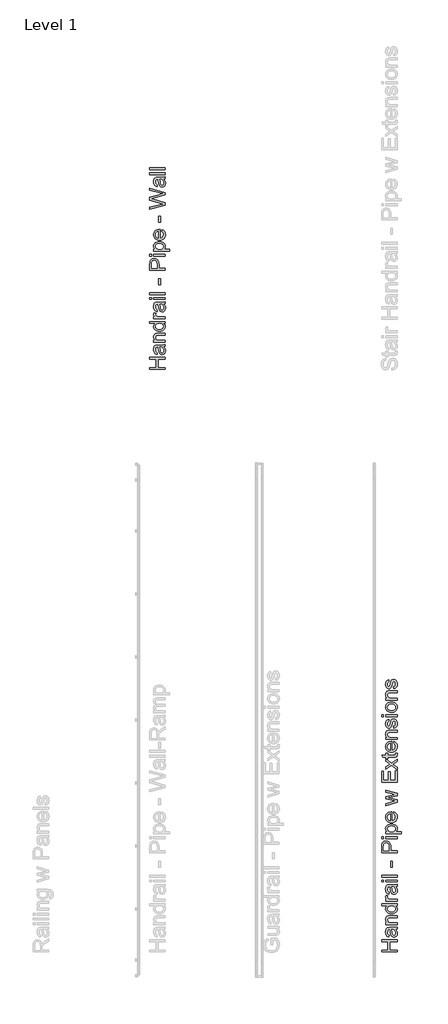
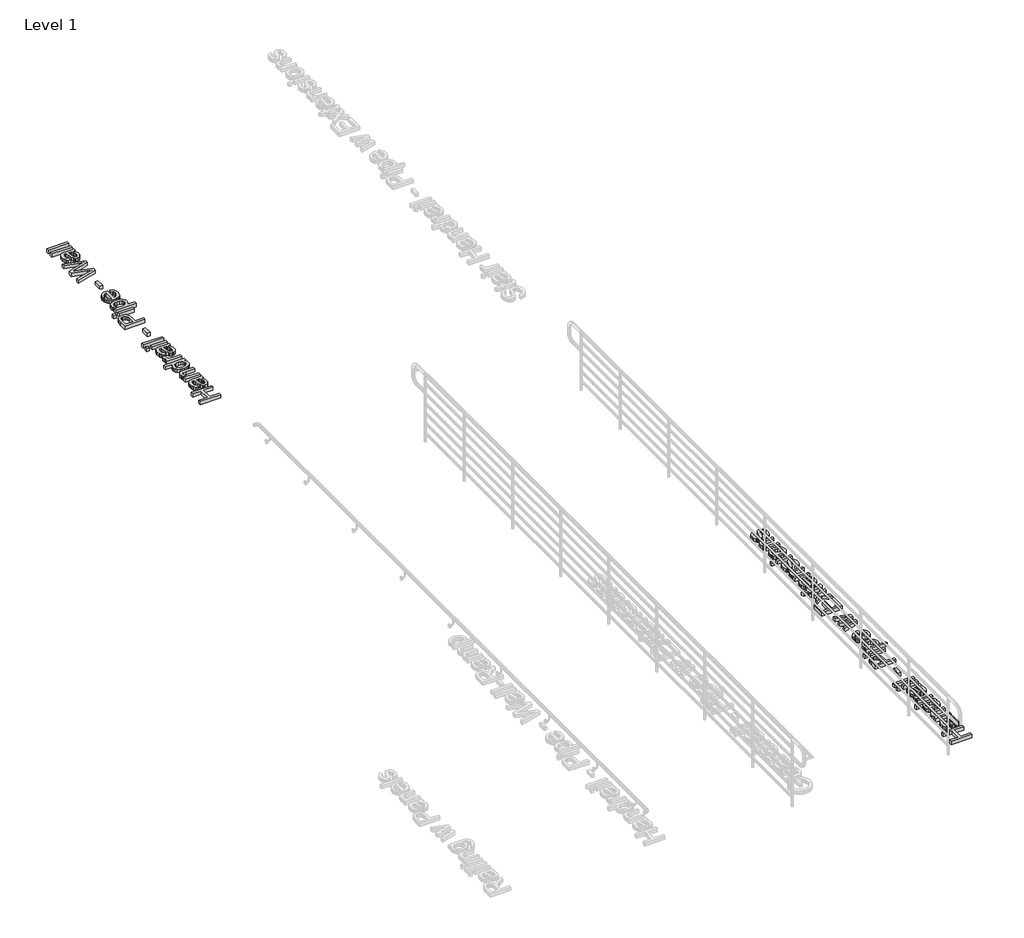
# One storey, part 11 of 14: 2 proxies.
"""IFC4 building model written with IfcOpenShell, lengths in millimetres."""

from ifc_helpers import new_model, si_unit, origin, origin_with_axes, place, context, project, spatial, polyline, outline, extrude, element, save

model = new_model("IFC4")

# Units and contexts
model_context = context("Model", 3, world=origin())
ifc_project = project(units=[si_unit("LENGTHUNIT", "METRE", prefix="MILLI")], contexts=[model_context])

# Site, building, storey
site = spatial("IfcSite", under=ifc_project)
building = spatial("IfcBuilding", under=site)
storey = spatial("IfcBuildingStorey", under=building, Name="Level 1", Elevation=0.0)

# Proxies
placement = place(None, origin())
element("IfcBuildingElementProxy", 1, Name="12\" Arial", ObjectType="12\" Arial", at=placement, inside=storey, context=model_context, shape_type="SweptSolid", body=[
    extrude(outline(polyline([(-1054.5124134, -14491.3688513), (-1354.6231826, -14491.3688513), (-1354.6231826, -14453.8550051), (-1232.7031826, -14453.8550051), (-1232.7031826, -14294.4211589), (-1354.6231826, -14294.4211589), (-1354.6231826, -14256.9073128), (-1054.5124134, -14256.9073128), (-1054.5124134, -14294.4211589), (-1195.1893365, -14294.4211589), (-1195.1893365, -14453.8550051), (-1054.5124134, -14453.8550051), (-1054.5124134, -14491.3688513)])), origin_with_axes(), (0.0, 0.0, 1.0), 50.8),
    extrude(outline(polyline([(-1082.647798, -14055.2703897), (-1067.2795769, -14073.1938753), (-1057.2233749, -14091.6485628), (-1051.6732307, -14111.0557503), (-1049.8231826, -14131.8367359), (-1054.2742884, -14163.186808), (-1067.6276057, -14186.3124089), (-1087.9048653, -14200.572433), (-1113.127798, -14205.3257743), (-1128.6791922, -14203.5306782), (-1142.8018365, -14198.1453897), (-1154.8912595, -14189.8384907), (-1164.3429903, -14179.2785628), (-1176.6522211, -14153.0115436), (-1182.2939519, -14120.5532743), (-1188.2287595, -14082.196832), (-1195.1893365, -14055.4901974), (-1203.5420288, -14055.2703897), (-1220.284048, -14057.8531301), (-1231.237798, -14065.6013513), (-1239.3706826, -14082.9295243), (-1242.0816442, -14107.0717359), (-1240.2773894, -14129.4188513), (-1234.8646249, -14145.0251974), (-1224.8542163, -14155.6675532), (-1209.2570288, -14163.1226974), (-1213.9462595, -14200.6365436), (-1234.4616442, -14194.1247407), (-1250.5808749, -14184.4074089), (-1262.908423, -14170.5778416), (-1272.0487595, -14151.729332), (-1277.7088076, -14128.6770003), (-1279.5954903, -14102.2359666), (-1277.9286153, -14076.8756541), (-1272.9279903, -14056.7724089), (-1265.4087355, -14041.6148368), (-1256.1859711, -14031.0915436), (-1244.783447, -14024.1126493), (-1230.7249134, -14019.5882743), (-1197.900298, -14017.7565436), (-1151.227798, -14017.7565436), (-1086.0548172, -14015.8515436), (-1054.5124134, -14008.378082), (-1054.5124134, -14045.8919282), (-1082.647798, -14055.2703897)]), holes=[polyline([(-1157.6754903, -14055.2703897), (-1146.1722211, -14115.7907743), (-1140.0908749, -14148.0658705), (-1130.1995288, -14162.683082), (-1115.7654903, -14167.8119282), (-1104.6102499, -14165.0185388), (-1095.4699134, -14156.6383705), (-1089.3702499, -14142.8545964), (-1087.3370288, -14123.8503897), (-1089.580899, -14103.7013513), (-1096.3125095, -14085.8969282), (-1106.2313317, -14071.4628897), (-1118.0368365, -14061.4250051), (-1130.1995288, -14056.9738993), (-1147.0514519, -14055.4901974), (-1157.6754903, -14055.2703897)])]), origin_with_axes(), (0.0, 0.0, 1.0), 50.8),
    extrude(outline(polyline([(-1054.5124134, -13966.1750051), (-1274.9062595, -13966.1750051), (-1274.9062595, -13928.6611589), (-1244.1331826, -13928.6611589), (-1259.6479422, -13915.6283945), (-1270.7299134, -13899.9762551), (-1277.3790961, -13881.7047407), (-1279.5954903, -13860.8138513), (-1277.8095528, -13842.3225291), (-1272.4517403, -13825.3881782), (-1264.1906345, -13811.2655339), (-1253.6948172, -13801.209332), (-1226.1089519, -13789.9625051), (-1189.8406826, -13787.9842359), (-1054.5124134, -13787.9842359), (-1054.5124134, -13825.498082), (-1184.7851057, -13825.498082), (-1217.9760672, -13829.8209666), (-1227.8582547, -13835.8015676), (-1235.524048, -13845.0976013), (-1240.4422451, -13857.0130099), (-1242.0816442, -13870.8517359), (-1238.3998653, -13892.8233464), (-1227.3545288, -13911.5527936), (-1218.3378341, -13919.0377034), (-1206.0148653, -13924.3840676), (-1171.4501057, -13928.6611589), (-1054.5124134, -13928.6611589), (-1054.5124134, -13966.1750051)])), origin_with_axes(), (0.0, 0.0, 1.0), 50.8),
    extrude(outline(polyline([(-1054.5124134, -13600.4150051), (-1089.9014519, -13600.4150051), (-1072.3672091, -13611.6389354), (-1059.8427499, -13625.234957), (-1052.3280745, -13641.20307), (-1049.8231826, -13659.5432743), (-1053.4500095, -13683.7953897), (-1064.3304903, -13705.9959666), (-1081.7044567, -13724.7895243), (-1104.8117403, -13738.820582), (-1132.7181586, -13747.5579378), (-1164.4895288, -13750.4703897), (-1195.8670769, -13747.7869041), (-1224.2039519, -13739.7364474), (-1247.8882307, -13726.3281782), (-1265.3079903, -13707.5712551), (-1276.0236153, -13684.8852695), (-1279.5954903, -13659.6898128), (-1277.0402259, -13641.3358705), (-1269.3744326, -13625.1067359), (-1257.6238797, -13611.3504378), (-1242.8143365, -13600.4150051), (-1354.6231826, -13600.4150051), (-1354.6231826, -13562.9011589), (-1054.5124134, -13562.9011589), (-1054.5124134, -13600.4150051)]), holes=[polyline([(-1164.6360672, -13712.9565436), (-1130.7032547, -13708.7252455), (-1106.5702019, -13696.0313513), (-1092.145322, -13677.5858224), (-1087.3370288, -13656.0996205), (-1091.9255144, -13634.6225772), (-1105.6909711, -13616.6441397), (-1128.8898413, -13604.4722888), (-1161.7785672, -13600.4150051), (-1197.7354422, -13604.545558), (-1222.665298, -13616.9372166), (-1237.2275576, -13635.3735868), (-1242.0816442, -13657.6382743), (-1237.4198894, -13679.3442839), (-1223.4346249, -13697.1303897), (-1199.4114759, -13709.0000051), (-1164.6360672, -13712.9565436)])]), origin_with_axes(), (0.0, 0.0, 1.0), 50.8),
    extrude(outline(polyline([(-1054.5124134, -13506.6303897), (-1274.9062595, -13506.6303897), (-1274.9062595, -13473.8057743), (-1242.3014519, -13473.8057743), (-1261.2049134, -13461.6797166), (-1272.3418365, -13450.5061589), (-1277.7820769, -13439.2959666), (-1279.5954903, -13427.0600051), (-1276.7013557, -13408.3763513), (-1268.0189519, -13389.3996205), (-1234.3883749, -13401.9286589), (-1240.1583269, -13415.1171205), (-1242.0816442, -13428.305582), (-1240.2315961, -13439.5066157), (-1234.6814519, -13449.5170243), (-1225.8525095, -13457.6041157), (-1214.1660672, -13463.0351974), (-1193.2110672, -13467.596207), (-1170.3510672, -13469.1165436), (-1054.5124134, -13469.1165436), (-1054.5124134, -13506.6303897)])), origin_with_axes(), (0.0, 0.0, 1.0), 50.8),
    extrude(outline(polyline([(-1082.647798, -13225.2765436), (-1067.2795769, -13243.2000291), (-1057.2233749, -13261.6547166), (-1051.6732307, -13281.0619041), (-1049.8231826, -13301.8428897), (-1054.2742884, -13333.1929618), (-1067.6276057, -13356.3185628), (-1087.9048653, -13370.5785868), (-1113.127798, -13375.3319282), (-1128.6791922, -13373.536832), (-1142.8018365, -13368.1515436), (-1154.8912595, -13359.8446445), (-1164.3429903, -13349.2847166), (-1176.6522211, -13323.0176974), (-1182.2939519, -13290.5594282), (-1188.2287595, -13252.2029859), (-1195.1893365, -13225.4963513), (-1203.5420288, -13225.2765436), (-1220.284048, -13227.8592839), (-1231.237798, -13235.6075051), (-1239.3706826, -13252.9356782), (-1242.0816442, -13277.0778897), (-1240.2773894, -13299.4250051), (-1234.8646249, -13315.0313513), (-1224.8542163, -13325.673707), (-1209.2570288, -13333.1288513), (-1213.9462595, -13370.6426974), (-1234.4616442, -13364.1308945), (-1250.5808749, -13354.4135628), (-1262.908423, -13340.5839955), (-1272.0487595, -13321.7354859), (-1277.7088076, -13298.6831541), (-1279.5954903, -13272.2421205), (-1277.9286153, -13246.881808), (-1272.9279903, -13226.7785628), (-1265.4087355, -13211.6209907), (-1256.1859711, -13201.0976974), (-1244.783447, -13194.1188032), (-1230.7249134, -13189.5944282), (-1197.900298, -13187.7626974), (-1151.227798, -13187.7626974), (-1086.0548172, -13185.8576974), (-1054.5124134, -13178.3842359), (-1054.5124134, -13215.898082), (-1082.647798, -13225.2765436)]), holes=[polyline([(-1157.6754903, -13225.2765436), (-1146.1722211, -13285.7969282), (-1140.0908749, -13318.0720243), (-1130.1995288, -13332.6892359), (-1115.7654903, -13337.818082), (-1104.6102499, -13335.0246926), (-1095.4699134, -13326.6445243), (-1089.3702499, -13312.8607503), (-1087.3370288, -13293.8565436), (-1089.580899, -13273.7075051), (-1096.3125095, -13255.903082), (-1106.2313317, -13241.4690436), (-1118.0368365, -13231.4311589), (-1130.1995288, -13226.9800532), (-1147.0514519, -13225.4963513), (-1157.6754903, -13225.2765436)])]), origin_with_axes(), (0.0, 0.0, 1.0), 50.8),
    extrude(outline(polyline([(-1317.1093365, -13136.1811589), (-1354.6231826, -13136.1811589), (-1354.6231826, -13098.6673128), (-1317.1093365, -13098.6673128), (-1317.1093365, -13136.1811589)])), origin_with_axes(), (0.0, 0.0, 1.0), 50.8),
    extrude(outline(polyline([(-1054.5124134, -13136.1811589), (-1274.9062595, -13136.1811589), (-1274.9062595, -13098.6673128), (-1054.5124134, -13098.6673128), (-1054.5124134, -13136.1811589)])), origin_with_axes(), (0.0, 0.0, 1.0), 50.8),
    extrude(outline(polyline([(-1054.5124134, -13042.3965436), (-1354.6231826, -13042.3965436), (-1354.6231826, -13004.8826974), (-1054.5124134, -13004.8826974), (-1054.5124134, -13042.3965436)])), origin_with_axes(), (0.0, 0.0, 1.0), 50.8),
    extrude(outline(polyline([(-1143.607798, -12850.138082), (-1181.1216442, -12850.138082), (-1181.1216442, -12732.9073128), (-1143.607798, -12732.9073128), (-1143.607798, -12850.138082)])), origin_with_axes(), (0.0, 0.0, 1.0), 50.8),
    extrude(outline(polyline([(-1054.5124134, -12568.7842359), (-1354.6231826, -12568.7842359), (-1354.6231826, -12457.5615436), (-1351.7656826, -12412.7207743), (-1346.4261874, -12392.727433), (-1337.7346249, -12376.269332), (-1325.297173, -12363.0167599), (-1308.7200095, -12352.6400051), (-1289.1662836, -12345.9358705), (-1267.7991442, -12343.7011589), (-1249.376512, -12345.2100472), (-1232.428423, -12349.7367118), (-1216.9548773, -12357.2811529), (-1202.9558749, -12367.8433705), (-1191.3518605, -12382.3438092), (-1183.0632788, -12401.7029138), (-1178.0901297, -12425.9206842), (-1176.4324134, -12454.9971205), (-1176.4324134, -12531.2703897), (-1054.5124134, -12531.2703897), (-1054.5124134, -12568.7842359)]), holes=[polyline([(-1213.9462595, -12531.2703897), (-1213.9462595, -12452.7990436), (-1217.3899134, -12419.5348128), (-1227.7208749, -12397.5540436), (-1244.2980384, -12385.2997647), (-1266.480298, -12381.2150051), (-1283.3322211, -12383.6237311), (-1297.5464519, -12390.8499089), (-1308.2437595, -12401.9959907), (-1314.5449134, -12416.1644282), (-1317.1093365, -12453.6782743), (-1317.1093365, -12531.2703897), (-1213.9462595, -12531.2703897)])]), origin_with_axes(), (0.0, 0.0, 1.0), 50.8),
    extrude(outline(polyline([(-1317.1093365, -12296.8088513), (-1354.6231826, -12296.8088513), (-1354.6231826, -12259.2950051), (-1317.1093365, -12259.2950051), (-1317.1093365, -12296.8088513)])), origin_with_axes(), (0.0, 0.0, 1.0), 50.8),
    extrude(outline(polyline([(-1054.5124134, -12296.8088513), (-1274.9062595, -12296.8088513), (-1274.9062595, -12259.2950051), (-1054.5124134, -12259.2950051), (-1054.5124134, -12296.8088513)])), origin_with_axes(), (0.0, 0.0, 1.0), 50.8),
    extrude(outline(polyline([(-970.1062595, -12203.0242359), (-1274.9062595, -12203.0242359), (-1274.9062595, -12165.5103897), (-1238.1251057, -12165.5103897), (-1256.268399, -12153.2744282), (-1269.2278942, -12139.573082), (-1277.0035913, -12123.6003897), (-1279.5954903, -12104.5503897), (-1275.9686634, -12079.1809186), (-1265.0881826, -12056.9986589), (-1247.6134711, -12038.9377936), (-1224.2039519, -12025.9325051), (-1196.5631345, -12018.0743801), (-1166.3945288, -12015.4550051), (-1134.3117644, -12018.4132503), (-1105.6177019, -12027.2879859), (-1081.7685672, -12041.7952936), (-1064.2205865, -12061.6512551), (-1053.4225336, -12084.7768561), (-1049.8231826, -12109.093082), (-1052.2319086, -12126.3388272), (-1059.4580865, -12141.7345243), (-1070.3660432, -12154.9138272), (-1083.8201057, -12165.5103897), (-970.1062595, -12165.5103897), (-970.1062595, -12203.0242359)]), holes=[polyline([(-1162.9508749, -12165.5103897), (-1129.320298, -12161.4531061), (-1105.8008749, -12149.2812551), (-1091.9529903, -12131.3211349), (-1087.3370288, -12109.8990436), (-1092.1178461, -12088.1289234), (-1106.460298, -12069.7108705), (-1130.8406345, -12057.1543561), (-1165.7351057, -12052.9688513), (-1199.1825095, -12057.0536109), (-1223.0316442, -12069.3078897), (-1237.3191442, -12087.2405339), (-1242.0816442, -12108.3603897), (-1237.0169086, -12129.5626734), (-1221.8227019, -12148.1822166), (-1196.975274, -12161.1783464), (-1162.9508749, -12165.5103897)])]), origin_with_axes(), (0.0, 0.0, 1.0), 50.8),
    extrude(outline(polyline([(-1120.1616442, -11818.9469282), (-1115.4724134, -11782.1657743), (-1087.7583269, -11795.4183464), (-1067.0414519, -11816.5656782), (-1054.1277499, -11845.1315195), (-1049.8231826, -11880.6396205), (-1051.6800997, -11903.9163392), (-1057.2508509, -11924.6561109), (-1066.5354362, -11942.8589354), (-1079.5338557, -11958.5248128), (-1095.8843425, -11971.1225412), (-1115.2251297, -11980.1209186), (-1137.5562175, -11985.519945), (-1162.8776057, -11987.3196205), (-1189.0576177, -11985.5016277), (-1212.1328461, -11980.0476493), (-1232.1032908, -11970.9576854), (-1248.9689519, -11958.2317359), (-1262.3680624, -11942.6070724), (-1271.9388557, -11924.8209666), (-1277.6813317, -11904.8734186), (-1279.5954903, -11882.7644282), (-1277.685911, -11861.3675231), (-1271.957173, -11842.0175772), (-1262.4092764, -11824.7145904), (-1249.0422211, -11809.4585628), (-1232.2131946, -11797.0050832), (-1212.2793845, -11788.1097407), (-1189.2407908, -11782.7725351), (-1163.0974134, -11780.9934666), (-1152.9862595, -11781.2132743), (-1152.9862595, -11949.8057743), (-1124.9058269, -11943.3122888), (-1104.2622211, -11928.2279859), (-1091.5683269, -11906.4578657), (-1087.3370288, -11879.9069282), (-1089.2969807, -11859.9410628), (-1095.1768365, -11843.1257743), (-1105.3429422, -11829.4610628), (-1120.1616442, -11818.9469282)]), holes=[polyline([(-1190.5001057, -11949.8057743), (-1190.5001057, -11818.5073128), (-1210.3194326, -11823.581207), (-1224.4970288, -11833.5275051), (-1237.6854903, -11855.3983705), (-1242.0816442, -11882.9109666), (-1238.5738797, -11908.1980099), (-1228.0505865, -11929.1072166), (-1211.6474374, -11943.6420003), (-1190.5001057, -11949.8057743)])]), origin_with_axes(), (0.0, 0.0, 1.0), 50.8),
    extrude(outline(polyline([(-1054.5124134, -11589.6875051), (-1274.9062595, -11656.7288513), (-1274.9062595, -11617.7496205), (-1146.3187595, -11579.7228897), (-1100.3789519, -11568.3661589), (-1144.6335672, -11559.0609666), (-1274.9062595, -11528.8007743), (-1274.9062595, -11484.1065436), (-1144.9999134, -11453.9928897), (-1104.9216442, -11445.7134666), (-1147.1979903, -11433.8438513), (-1274.9062595, -11395.7438513), (-1274.9062595, -11356.618082), (-1054.5124134, -11424.1723128), (-1054.5124134, -11469.5259666), (-1183.7593365, -11498.3207743), (-1224.0574134, -11506.6734666), (-1054.5124134, -11543.8209666), (-1054.5124134, -11589.6875051)])), origin_with_axes(), (0.0, 0.0, 1.0), 50.8),
    extrude(outline(polyline([(-1054.5124134, -11208.9073128), (-1354.6231826, -11208.9073128), (-1354.6231826, -10993.2026974), (-1317.1093365, -10993.2026974), (-1317.1093365, -11171.3934666), (-1228.0139519, -11171.3934666), (-1228.0139519, -11002.5811589), (-1190.5001057, -11002.5811589), (-1190.5001057, -11171.3934666), (-1092.0262595, -11171.3934666), (-1092.0262595, -10988.5134666), (-1054.5124134, -10988.5134666), (-1054.5124134, -11208.9073128)])), origin_with_axes(), (0.0, 0.0, 1.0), 50.8),
    extrude(outline(polyline([(-1054.5124134, -10960.378082), (-1165.2954903, -10880.2215436), (-1274.9062595, -10955.6888513), (-1274.9062595, -10910.5550051), (-1222.1524134, -10874.1401974), (-1197.2408749, -10857.1417359), (-1217.6097211, -10842.4146205), (-1274.9062595, -10800.9442359), (-1274.9062595, -10755.8103897), (-1165.2954903, -10835.0876974), (-1054.5124134, -10758.7411589), (-1054.5124134, -10803.8750051), (-1121.1141442, -10849.8148128), (-1133.2768365, -10858.2407743), (-1054.5124134, -10915.2442359), (-1054.5124134, -10960.378082)])), origin_with_axes(), (0.0, 0.0, 1.0), 50.8),
    extrude(outline(polyline([(-1085.7983749, -10646.1996205), (-1053.4133749, -10641.5103897), (-1049.8231826, -10669.5725051), (-1051.3801538, -10687.5784186), (-1056.0510672, -10701.0050051), (-1063.2497692, -10710.4933705), (-1072.3901057, -10716.6846205), (-1088.0880384, -10720.0916397), (-1114.9595288, -10721.2273128), (-1237.3924134, -10721.2273128), (-1237.3924134, -10749.3626974), (-1274.9062595, -10749.3626974), (-1274.9062595, -10721.2273128), (-1328.4660672, -10721.2273128), (-1350.5201057, -10683.7134666), (-1274.9062595, -10683.7134666), (-1274.9062595, -10646.1996205), (-1237.3924134, -10646.1996205), (-1237.3924134, -10683.7134666), (-1116.0585672, -10683.7134666), (-1096.7154903, -10681.7351974), (-1089.8648172, -10675.3241397), (-1087.3370288, -10662.5386589), (-1085.7983749, -10646.1996205)])), origin_with_axes(), (0.0, 0.0, 1.0), 50.8),
    extrude(outline(polyline([(-1120.1616442, -10454.3807743), (-1115.4724134, -10417.5996205), (-1087.7583269, -10430.8521926), (-1067.0414519, -10451.9995243), (-1054.1277499, -10480.5653657), (-1049.8231826, -10516.0734666), (-1051.6800997, -10539.3501854), (-1057.2508509, -10560.089957), (-1066.5354362, -10578.2927815), (-1079.5338557, -10593.9586589), (-1095.8843425, -10606.5563873), (-1115.2251297, -10615.5547647), (-1137.5562175, -10620.9537912), (-1162.8776057, -10622.7534666), (-1189.0576177, -10620.9354739), (-1212.1328461, -10615.4814955), (-1232.1032908, -10606.3915315), (-1248.9689519, -10593.665582), (-1262.3680624, -10578.0409186), (-1271.9388557, -10560.2548128), (-1277.6813317, -10540.3072647), (-1279.5954903, -10518.1982743), (-1277.685911, -10496.8013693), (-1271.957173, -10477.4514234), (-1262.4092764, -10460.1484366), (-1249.0422211, -10444.8924089), (-1232.2131946, -10432.4389294), (-1212.2793845, -10423.5435868), (-1189.2407908, -10418.2063813), (-1163.0974134, -10416.4273128), (-1152.9862595, -10416.6471205), (-1152.9862595, -10585.2396205), (-1124.9058269, -10578.7461349), (-1104.2622211, -10563.661832), (-1091.5683269, -10541.8917118), (-1087.3370288, -10515.3407743), (-1089.2969807, -10495.3749089), (-1095.1768365, -10478.5596205), (-1105.3429422, -10464.8949089), (-1120.1616442, -10454.3807743)]), holes=[polyline([(-1190.5001057, -10585.2396205), (-1190.5001057, -10453.9411589), (-1210.3194326, -10459.0150532), (-1224.4970288, -10468.9613513), (-1237.6854903, -10490.8322166), (-1242.0816442, -10518.3448128), (-1238.5738797, -10543.6318561), (-1228.0505865, -10564.5410628), (-1211.6474374, -10579.0758464), (-1190.5001057, -10585.2396205)])]), origin_with_axes(), (0.0, 0.0, 1.0), 50.8),
    extrude(outline(polyline([(-1054.5124134, -10378.9134666), (-1274.9062595, -10378.9134666), (-1274.9062595, -10341.3996205), (-1244.1331826, -10341.3996205), (-1259.6479422, -10328.3668561), (-1270.7299134, -10312.7147166), (-1277.3790961, -10294.4432022), (-1279.5954903, -10273.5523128), (-1277.8095528, -10255.0609907), (-1272.4517403, -10238.1266397), (-1264.1906345, -10224.0039955), (-1253.6948172, -10213.9477936), (-1226.1089519, -10202.7009666), (-1189.8406826, -10200.7226974), (-1054.5124134, -10200.7226974), (-1054.5124134, -10238.2365436), (-1184.7851057, -10238.2365436), (-1217.9760672, -10242.5594282), (-1227.8582547, -10248.5400291), (-1235.524048, -10257.8360628), (-1240.4422451, -10269.7514714), (-1242.0816442, -10283.5901974), (-1238.3998653, -10305.561808), (-1227.3545288, -10324.2912551), (-1218.3378341, -10331.776165), (-1206.0148653, -10337.1225291), (-1171.4501057, -10341.3996205), (-1054.5124134, -10341.3996205), (-1054.5124134, -10378.9134666)])), origin_with_axes(), (0.0, 0.0, 1.0), 50.8),
    extrude(outline(polyline([(-1120.1616442, -10163.2088513), (-1124.8508749, -10125.6950051), (-1108.8049134, -10119.7785147), (-1097.0085672, -10108.3301974), (-1089.7549134, -10091.2767839), (-1087.3370288, -10068.5450051), (-1089.553423, -10046.0879859), (-1096.2026057, -10030.2984666), (-1105.8375095, -10020.9566397), (-1117.0110672, -10017.8426974), (-1126.5727019, -10020.974957), (-1133.8629903, -10030.3717359), (-1144.560298, -10068.9846205), (-1162.9142403, -10125.4751974), (-1172.1370047, -10139.7718561), (-1184.3454903, -10150.1302936), (-1198.7612115, -10156.4222888), (-1214.6056826, -10158.5196205), (-1229.1404663, -10156.8344282), (-1242.5578942, -10151.7788513), (-1254.3267644, -10143.8108224), (-1263.9158749, -10133.3882743), (-1275.0161634, -10109.5391397), (-1279.5954903, -10077.2640436), (-1277.7546009, -10052.8470724), (-1272.2319326, -10031.6173128), (-1263.5678461, -10014.545582), (-1252.3027019, -10002.6026974), (-1237.6030624, -9994.6896205), (-1218.6354903, -9989.7073128), (-1213.9462595, -10027.2211589), (-1225.7517644, -10031.956183), (-1234.6448172, -10041.3254859), (-1240.2224374, -10055.4206541), (-1242.0816442, -10074.3332743), (-1240.3048653, -10095.8744282), (-1234.9745288, -10110.2351974), (-1227.2812595, -10118.3131301), (-1218.4156826, -10121.0057743), (-1207.4985672, -10116.5363513), (-1199.2191442, -10102.5419282), (-1191.232798, -10070.2301974), (-1173.5749134, -10015.1683705), (-1165.1306345, -10000.6244282), (-1153.5724134, -9989.5974089), (-1138.8636153, -9982.6459907), (-1120.9676057, -9980.3288513), (-1102.4671249, -9983.0489714), (-1085.0656826, -9991.209332), (-1070.1279182, -10004.4985388), (-1059.0184711, -10022.6051974), (-1052.1220047, -10044.4760628), (-1049.8231826, -10069.0578897), (-1054.2559711, -10106.8831301), (-1067.5543365, -10134.4873128), (-1089.5717403, -10152.9145243), (-1120.1616442, -10163.2088513)])), origin_with_axes(), (0.0, 0.0, 1.0), 50.8),
    extrude(outline(polyline([(-1317.1093365, -9938.1257743), (-1354.6231826, -9938.1257743), (-1354.6231826, -9900.6119282), (-1317.1093365, -9900.6119282), (-1317.1093365, -9938.1257743)])), origin_with_axes(), (0.0, 0.0, 1.0), 50.8),
    extrude(outline(polyline([(-1054.5124134, -9938.1257743), (-1274.9062595, -9938.1257743), (-1274.9062595, -9900.6119282), (-1054.5124134, -9900.6119282), (-1054.5124134, -9938.1257743)])), origin_with_axes(), (0.0, 0.0, 1.0), 50.8),
    extrude(outline(polyline([(-1164.7093365, -9853.7196205), (-1193.2522812, -9851.6909787), (-1217.8478461, -9845.6050532), (-1238.4960312, -9835.461844), (-1255.1968365, -9821.2613513), (-1265.8712475, -9806.9646926), (-1273.4958269, -9791.184332), (-1278.0705745, -9773.9202695), (-1279.5954903, -9755.1725051), (-1277.7385733, -9734.4762371), (-1272.167822, -9715.7628176), (-1262.8832367, -9699.0322467), (-1249.8848172, -9684.2845243), (-1233.612179, -9672.2477635), (-1214.5049374, -9663.6500772), (-1192.5630925, -9658.4914654), (-1167.7866442, -9656.7719282), (-1129.8881345, -9659.8126013), (-1101.0383749, -9668.9346205), (-1079.4331105, -9683.8723849), (-1063.2680865, -9704.3602936), (-1053.1844086, -9728.6948368), (-1049.8231826, -9755.1725051), (-1051.6732307, -9776.1710087), (-1057.2233749, -9795.0584426), (-1066.4736153, -9811.8348068), (-1079.4239519, -9826.5001013), (-1095.8545769, -9838.4086409), (-1115.5456826, -9846.9147407), (-1138.4972692, -9852.0184005), (-1164.7093365, -9853.7196205)]), holes=[polyline([(-1164.7826057, -9816.2057743), (-1130.8314759, -9811.8645724), (-1106.6434711, -9798.8409666), (-1092.1636394, -9779.2414474), (-1087.3370288, -9755.1725051), (-1092.1911153, -9731.2134666), (-1106.7533749, -9711.650582), (-1131.2619326, -9698.6269763), (-1165.9549134, -9694.2857743), (-1198.9169086, -9698.6544522), (-1222.7752019, -9711.7604859), (-1237.2550336, -9731.3508464), (-1242.0816442, -9755.1725051), (-1237.2733509, -9779.2414474), (-1222.8484711, -9798.8409666), (-1198.7154182, -9811.8645724), (-1164.7826057, -9816.2057743)])]), origin_with_axes(), (0.0, 0.0, 1.0), 50.8),
    extrude(outline(polyline([(-1054.5124134, -9614.5688513), (-1274.9062595, -9614.5688513), (-1274.9062595, -9577.0550051), (-1244.1331826, -9577.0550051), (-1259.6479422, -9564.0222407), (-1270.7299134, -9548.3701013), (-1277.3790961, -9530.0985868), (-1279.5954903, -9509.2076974), (-1277.8095528, -9490.7163753), (-1272.4517403, -9473.7820243), (-1264.1906345, -9459.6593801), (-1253.6948172, -9449.6031782), (-1226.1089519, -9438.3563513), (-1189.8406826, -9436.378082), (-1054.5124134, -9436.378082), (-1054.5124134, -9473.8919282), (-1184.7851057, -9473.8919282), (-1217.9760672, -9478.2148128), (-1227.8582547, -9484.1954138), (-1235.524048, -9493.4914474), (-1240.4422451, -9505.4068561), (-1242.0816442, -9519.245582), (-1238.3998653, -9541.2171926), (-1227.3545288, -9559.9466397), (-1218.3378341, -9567.4315496), (-1206.0148653, -9572.7779138), (-1171.4501057, -9577.0550051), (-1054.5124134, -9577.0550051), (-1054.5124134, -9614.5688513)])), origin_with_axes(), (0.0, 0.0, 1.0), 50.8),
    extrude(outline(polyline([(-1120.1616442, -9398.8642359), (-1124.8508749, -9361.3503897), (-1108.8049134, -9355.4338993), (-1097.0085672, -9343.985582), (-1089.7549134, -9326.9321686), (-1087.3370288, -9304.2003897), (-1089.553423, -9281.7433705), (-1096.2026057, -9265.9538513), (-1105.8375095, -9256.6120243), (-1117.0110672, -9253.498082), (-1126.5727019, -9256.6303416), (-1133.8629903, -9266.0271205), (-1144.560298, -9304.6400051), (-1162.9142403, -9361.130582), (-1172.1370047, -9375.4272407), (-1184.3454903, -9385.7856782), (-1198.7612115, -9392.0776734), (-1214.6056826, -9394.1750051), (-1229.1404663, -9392.4898128), (-1242.5578942, -9387.4342359), (-1254.3267644, -9379.466207), (-1263.9158749, -9369.0436589), (-1275.0161634, -9345.1945243), (-1279.5954903, -9312.9194282), (-1277.7546009, -9288.502457), (-1272.2319326, -9267.2726974), (-1263.5678461, -9250.2009666), (-1252.3027019, -9238.258082), (-1237.6030624, -9230.3450051), (-1218.6354903, -9225.3626974), (-1213.9462595, -9262.8765436), (-1225.7517644, -9267.6115676), (-1234.6448172, -9276.9808705), (-1240.2224374, -9291.0760388), (-1242.0816442, -9309.9886589), (-1240.3048653, -9331.5298128), (-1234.9745288, -9345.890582), (-1227.2812595, -9353.9685147), (-1218.4156826, -9356.6611589), (-1207.4985672, -9352.1917359), (-1199.2191442, -9338.1973128), (-1191.232798, -9305.885582), (-1173.5749134, -9250.8237551), (-1165.1306345, -9236.2798128), (-1153.5724134, -9225.2527936), (-1138.8636153, -9218.3013753), (-1120.9676057, -9215.9842359), (-1102.4671249, -9218.7043561), (-1085.0656826, -9226.8647166), (-1070.1279182, -9240.1539234), (-1059.0184711, -9258.260582), (-1052.1220047, -9280.1314474), (-1049.8231826, -9304.7132743), (-1054.2559711, -9342.5385147), (-1067.5543365, -9370.1426974), (-1089.5717403, -9388.5699089), (-1120.1616442, -9398.8642359)])), origin_with_axes(), (0.0, 0.0, 1.0), 50.8),
])
element("IfcBuildingElementProxy", 2, Name="12\" Arial", ObjectType="12\" Arial", at=placement, inside=storey, context=model_context, shape_type="SweptSolid", body=[
    extrude(outline(polyline([(-5548.5753423, -3217.1702071), (-5848.6861115, -3217.1702071), (-5848.6861115, -3179.656361), (-5726.7661115, -3179.656361), (-5726.7661115, -3020.2225148), (-5848.6861115, -3020.2225148), (-5848.6861115, -2982.7086687), (-5548.5753423, -2982.7086687), (-5548.5753423, -3020.2225148), (-5689.2522653, -3020.2225148), (-5689.2522653, -3179.656361), (-5548.5753423, -3179.656361), (-5548.5753423, -3217.1702071)])), origin_with_axes(), (0.0, 0.0, 1.0), 50.8),
    extrude(outline(polyline([(-5576.7107269, -2781.0717456), (-5561.3425057, -2798.9952312), (-5551.2863038, -2817.4499187), (-5545.7361596, -2836.8571062), (-5543.8861115, -2857.6380917), (-5548.3372173, -2888.9881639), (-5561.6905346, -2912.1137648), (-5581.9677942, -2926.3737889), (-5607.1907269, -2931.1271302), (-5622.7421211, -2929.3320341), (-5636.8647653, -2923.9467456), (-5648.9541884, -2915.6398466), (-5658.4059192, -2905.0799187), (-5670.71515, -2878.8128994), (-5676.3568807, -2846.3546302), (-5682.2916884, -2807.9981879), (-5689.2522653, -2781.2915533), (-5697.6049576, -2781.0717456), (-5714.3469769, -2783.654486), (-5725.3007269, -2791.4027071), (-5733.4336115, -2808.7308802), (-5736.144573, -2832.8730917), (-5734.3403182, -2855.2202071), (-5728.9275538, -2870.8265533), (-5718.9171451, -2881.4689091), (-5703.3199576, -2888.9240533), (-5708.0091884, -2926.4378994), (-5728.524573, -2919.9260966), (-5744.6438038, -2910.2087648), (-5756.9713519, -2896.3791975), (-5766.1116884, -2877.5306879), (-5771.7717365, -2854.4783562), (-5773.6584192, -2828.0373225), (-5771.9915442, -2802.67701), (-5766.9909192, -2782.5737648), (-5759.4716644, -2767.4161927), (-5750.2489, -2756.8928994), (-5738.8463759, -2749.9140052), (-5724.7878423, -2745.3896302), (-5691.9632269, -2743.5578994), (-5645.2907269, -2743.5578994), (-5580.1177461, -2741.6528994), (-5548.5753423, -2734.1794379), (-5548.5753423, -2771.6932841), (-5576.7107269, -2781.0717456)]), holes=[polyline([(-5651.7384192, -2781.0717456), (-5640.23515, -2841.5921302), (-5634.1538038, -2873.8672264), (-5624.2624576, -2888.4844379), (-5609.8284192, -2893.6132841), (-5598.6731788, -2890.8198946), (-5589.5328423, -2882.4397264), (-5583.4331788, -2868.6559523), (-5581.3999576, -2849.6517456), (-5583.6438278, -2829.5027071), (-5590.3754384, -2811.6982841), (-5600.2942605, -2797.2642456), (-5612.0997653, -2787.226361), (-5624.2624576, -2782.7752552), (-5641.1143807, -2781.2915533), (-5651.7384192, -2781.0717456)])]), origin_with_axes(), (0.0, 0.0, 1.0), 50.8),
    extrude(outline(polyline([(-5548.5753423, -2691.976361), (-5768.9691884, -2691.976361), (-5768.9691884, -2654.4625148), (-5738.1961115, -2654.4625148), (-5753.7108711, -2641.4297504), (-5764.7928423, -2625.777611), (-5771.442025, -2607.5060966), (-5773.6584192, -2586.6152071), (-5771.8724817, -2568.123885), (-5766.5146692, -2551.1895341), (-5758.2535634, -2537.0668898), (-5747.7577461, -2527.0106879), (-5720.1718807, -2515.763861), (-5683.9036115, -2513.7855917), (-5548.5753423, -2513.7855917), (-5548.5753423, -2551.2994379), (-5678.8480346, -2551.2994379), (-5712.0389961, -2555.6223225), (-5721.9211836, -2561.6029235), (-5729.5869769, -2570.8989571), (-5734.505174, -2582.8143658), (-5736.144573, -2596.6530917), (-5732.4627942, -2618.6247023), (-5721.4174576, -2637.3541494), (-5712.4007629, -2644.8390593), (-5700.0777942, -2650.1854235), (-5665.5130346, -2654.4625148), (-5548.5753423, -2654.4625148), (-5548.5753423, -2691.976361)])), origin_with_axes(), (0.0, 0.0, 1.0), 50.8),
    extrude(outline(polyline([(-5548.5753423, -2326.216361), (-5583.9643807, -2326.216361), (-5566.4301379, -2337.4402913), (-5553.9056788, -2351.0363129), (-5546.3910033, -2367.0044259), (-5543.8861115, -2385.3446302), (-5547.5129384, -2409.5967456), (-5558.3934192, -2431.7973225), (-5575.7673855, -2450.5908802), (-5598.8746692, -2464.6219379), (-5626.7810875, -2473.3592937), (-5658.5524576, -2476.2717456), (-5689.9300057, -2473.58826), (-5718.2668807, -2465.5378033), (-5741.9511596, -2452.1295341), (-5759.3709192, -2433.372611), (-5770.0865442, -2410.6866254), (-5773.6584192, -2385.4911687), (-5771.1031548, -2367.1372264), (-5763.4373615, -2350.9080917), (-5751.6868086, -2337.1517937), (-5736.8772653, -2326.216361), (-5848.6861115, -2326.216361), (-5848.6861115, -2288.7025148), (-5548.5753423, -2288.7025148), (-5548.5753423, -2326.216361)]), holes=[polyline([(-5658.6989961, -2438.7578994), (-5624.7661836, -2434.5266014), (-5600.6331307, -2421.8327071), (-5586.2082509, -2403.3871783), (-5581.3999576, -2381.9009764), (-5585.9884432, -2360.4239331), (-5599.7539, -2342.4454956), (-5622.9527701, -2330.2736446), (-5655.8414961, -2326.216361), (-5691.7983711, -2330.3469139), (-5716.7282269, -2342.7385725), (-5731.2904865, -2361.1749427), (-5736.144573, -2383.4396302), (-5731.4828182, -2405.1456398), (-5717.4975538, -2422.9317456), (-5693.4744048, -2434.801361), (-5658.6989961, -2438.7578994)])]), origin_with_axes(), (0.0, 0.0, 1.0), 50.8),
    extrude(outline(polyline([(-5548.5753423, -2232.4317456), (-5768.9691884, -2232.4317456), (-5768.9691884, -2199.6071302), (-5736.3643807, -2199.6071302), (-5755.2678423, -2187.4810725), (-5766.4047653, -2176.3075148), (-5771.8450057, -2165.0973225), (-5773.6584192, -2152.861361), (-5770.7642846, -2134.1777071), (-5762.0818807, -2115.2009764), (-5728.4513038, -2127.7300148), (-5734.2212557, -2140.9184764), (-5736.144573, -2154.1069379), (-5734.294525, -2165.3079716), (-5728.7443807, -2175.3183802), (-5719.9154384, -2183.4054716), (-5708.2289961, -2188.8365533), (-5687.2739961, -2193.3975629), (-5664.4139961, -2194.9178994), (-5548.5753423, -2194.9178994), (-5548.5753423, -2232.4317456)])), origin_with_axes(), (0.0, 0.0, 1.0), 50.8),
    extrude(outline(polyline([(-5576.7107269, -1951.0778994), (-5561.3425057, -1969.001385), (-5551.2863038, -1987.4560725), (-5545.7361596, -2006.86326), (-5543.8861115, -2027.6442456), (-5548.3372173, -2058.9943177), (-5561.6905346, -2082.1199187), (-5581.9677942, -2096.3799427), (-5607.1907269, -2101.1332841), (-5622.7421211, -2099.3381879), (-5636.8647653, -2093.9528994), (-5648.9541884, -2085.6460004), (-5658.4059192, -2075.0860725), (-5670.71515, -2048.8190533), (-5676.3568807, -2016.3607841), (-5682.2916884, -1978.0043417), (-5689.2522653, -1951.2977071), (-5697.6049576, -1951.0778994), (-5714.3469769, -1953.6606398), (-5725.3007269, -1961.408861), (-5733.4336115, -1978.7370341), (-5736.144573, -2002.8792456), (-5734.3403182, -2025.226361), (-5728.9275538, -2040.8327071), (-5718.9171451, -2051.4750629), (-5703.3199576, -2058.9302071), (-5708.0091884, -2096.4440533), (-5728.524573, -2089.9322504), (-5744.6438038, -2080.2149187), (-5756.9713519, -2066.3853514), (-5766.1116884, -2047.5368417), (-5771.7717365, -2024.48451), (-5773.6584192, -1998.0434764), (-5771.9915442, -1972.6831639), (-5766.9909192, -1952.5799187), (-5759.4716644, -1937.4223466), (-5750.2489, -1926.8990533), (-5738.8463759, -1919.9201591), (-5724.7878423, -1915.3957841), (-5691.9632269, -1913.5640533), (-5645.2907269, -1913.5640533), (-5580.1177461, -1911.6590533), (-5548.5753423, -1904.1855917), (-5548.5753423, -1941.6994379), (-5576.7107269, -1951.0778994)]), holes=[polyline([(-5651.7384192, -1951.0778994), (-5640.23515, -2011.5982841), (-5634.1538038, -2043.8733802), (-5624.2624576, -2058.4905917), (-5609.8284192, -2063.6194379), (-5598.6731788, -2060.8260485), (-5589.5328423, -2052.4458802), (-5583.4331788, -2038.6621062), (-5581.3999576, -2019.6578994), (-5583.6438278, -1999.508861), (-5590.3754384, -1981.7044379), (-5600.2942605, -1967.2703994), (-5612.0997653, -1957.2325148), (-5624.2624576, -1952.7814091), (-5641.1143807, -1951.2977071), (-5651.7384192, -1951.0778994)])]), origin_with_axes(), (0.0, 0.0, 1.0), 50.8),
    extrude(outline(polyline([(-5811.1722653, -1861.9825148), (-5848.6861115, -1861.9825148), (-5848.6861115, -1824.4686687), (-5811.1722653, -1824.4686687), (-5811.1722653, -1861.9825148)])), origin_with_axes(), (0.0, 0.0, 1.0), 50.8),
    extrude(outline(polyline([(-5548.5753423, -1861.9825148), (-5768.9691884, -1861.9825148), (-5768.9691884, -1824.4686687), (-5548.5753423, -1824.4686687), (-5548.5753423, -1861.9825148)])), origin_with_axes(), (0.0, 0.0, 1.0), 50.8),
    extrude(outline(polyline([(-5548.5753423, -1768.1978994), (-5848.6861115, -1768.1978994), (-5848.6861115, -1730.6840533), (-5548.5753423, -1730.6840533), (-5548.5753423, -1768.1978994)])), origin_with_axes(), (0.0, 0.0, 1.0), 50.8),
    extrude(outline(polyline([(-5637.6707269, -1575.9394379), (-5675.184573, -1575.9394379), (-5675.184573, -1458.7086687), (-5637.6707269, -1458.7086687), (-5637.6707269, -1575.9394379)])), origin_with_axes(), (0.0, 0.0, 1.0), 50.8),
    extrude(outline(polyline([(-5548.5753423, -1294.5855917), (-5848.6861115, -1294.5855917), (-5848.6861115, -1183.3628994), (-5845.8286115, -1138.5221302), (-5840.4891163, -1118.5287889), (-5831.7975538, -1102.0706879), (-5819.3601019, -1088.8181158), (-5802.7829384, -1078.441361), (-5783.2292125, -1071.7372264), (-5761.862073, -1069.5025148), (-5743.4394408, -1071.011403), (-5726.4913519, -1075.5380677), (-5711.0178062, -1083.0825088), (-5697.0188038, -1093.6447264), (-5685.4147894, -1108.1451651), (-5677.1262076, -1127.5042696), (-5672.1530586, -1151.7220401), (-5670.4953423, -1180.7984764), (-5670.4953423, -1257.0717456), (-5548.5753423, -1257.0717456), (-5548.5753423, -1294.5855917)]), holes=[polyline([(-5708.0091884, -1257.0717456), (-5708.0091884, -1178.6003994), (-5711.4528423, -1145.3361687), (-5721.7838038, -1123.3553994), (-5738.3609673, -1111.1011206), (-5760.5432269, -1107.016361), (-5777.39515, -1109.4250869), (-5791.6093807, -1116.6512648), (-5802.3066884, -1127.7973466), (-5808.6078423, -1141.9657841), (-5811.1722653, -1179.4796302), (-5811.1722653, -1257.0717456), (-5708.0091884, -1257.0717456)])]), origin_with_axes(), (0.0, 0.0, 1.0), 50.8),
    extrude(outline(polyline([(-5811.1722653, -1022.6102071), (-5848.6861115, -1022.6102071), (-5848.6861115, -985.096361), (-5811.1722653, -985.096361), (-5811.1722653, -1022.6102071)])), origin_with_axes(), (0.0, 0.0, 1.0), 50.8),
    extrude(outline(polyline([(-5548.5753423, -1022.6102071), (-5768.9691884, -1022.6102071), (-5768.9691884, -985.096361), (-5548.5753423, -985.096361), (-5548.5753423, -1022.6102071)])), origin_with_axes(), (0.0, 0.0, 1.0), 50.8),
    extrude(outline(polyline([(-5464.1691884, -928.8255917), (-5768.9691884, -928.8255917), (-5768.9691884, -891.3117456), (-5732.1880346, -891.3117456), (-5750.3313278, -879.0757841), (-5763.290823, -865.3744379), (-5771.0665201, -849.4017456), (-5773.6584192, -830.3517456), (-5770.0315923, -804.9822744), (-5759.1511115, -782.8000148), (-5741.6764, -764.7391494), (-5718.2668807, -751.733861), (-5690.6260634, -743.875736), (-5660.4574576, -741.256361), (-5628.3746932, -744.2146062), (-5599.6806307, -753.0893417), (-5575.8314961, -767.5966494), (-5558.2835153, -787.452611), (-5547.4854625, -810.5782119), (-5543.8861115, -834.8944379), (-5546.2948375, -852.1401831), (-5553.5210153, -867.5358802), (-5564.4289721, -880.7151831), (-5577.8830346, -891.3117456), (-5464.1691884, -891.3117456), (-5464.1691884, -928.8255917)]), holes=[polyline([(-5657.0138038, -891.3117456), (-5623.3832269, -887.2544619), (-5599.8638038, -875.082611), (-5586.0159192, -857.1224908), (-5581.3999576, -835.7003994), (-5586.180775, -813.9302792), (-5600.5232269, -795.5122264), (-5624.9035634, -782.9557119), (-5659.7980346, -778.7702071), (-5693.2454384, -782.8549667), (-5717.094573, -795.1092456), (-5731.382073, -813.0418898), (-5736.144573, -834.1617456), (-5731.0798375, -855.3640292), (-5715.8856307, -873.9835725), (-5691.0382028, -886.9797023), (-5657.0138038, -891.3117456)])]), origin_with_axes(), (0.0, 0.0, 1.0), 50.8),
    extrude(outline(polyline([(-5614.224573, -544.7482841), (-5609.5353423, -507.9671302), (-5581.8212557, -521.2197023), (-5561.1043807, -542.3670341), (-5548.1906788, -570.9328754), (-5543.8861115, -606.4409764), (-5545.7430286, -629.7176951), (-5551.3137798, -650.4574667), (-5560.5983651, -668.6602913), (-5573.5967846, -684.3261687), (-5589.9472713, -696.923897), (-5609.2880586, -705.9222744), (-5631.6191463, -711.3213009), (-5656.9405346, -713.1209764), (-5683.1205466, -711.3029836), (-5706.195775, -705.8490052), (-5726.1662197, -696.7590413), (-5743.0318807, -684.0330917), (-5756.4309913, -668.4084283), (-5766.0017846, -650.6223225), (-5771.7442605, -630.6747744), (-5773.6584192, -608.5657841), (-5771.7488399, -587.168879), (-5766.0201019, -567.8189331), (-5756.4722052, -550.5159463), (-5743.10515, -535.2599187), (-5726.2761235, -522.8064391), (-5706.3423134, -513.9110966), (-5683.3037197, -508.573891), (-5657.1603423, -506.7948225), (-5647.0491884, -507.0146302), (-5647.0491884, -675.6071302), (-5618.9687557, -669.1136446), (-5598.32515, -654.0293417), (-5585.6312557, -632.2592216), (-5581.3999576, -605.7082841), (-5583.3599096, -585.7424187), (-5589.2397653, -568.9271302), (-5599.4058711, -555.2624187), (-5614.224573, -544.7482841)]), holes=[polyline([(-5684.5630346, -675.6071302), (-5684.5630346, -544.3086687), (-5704.3823615, -549.3825629), (-5718.5599576, -559.328861), (-5731.7484192, -581.1997264), (-5736.144573, -608.7123225), (-5732.6368086, -633.9993658), (-5722.1135153, -654.9085725), (-5705.7103663, -669.4433562), (-5684.5630346, -675.6071302)])]), origin_with_axes(), (0.0, 0.0, 1.0), 50.8),
    extrude(outline(polyline([(-5637.6707269, -370.8071302), (-5675.184573, -370.8071302), (-5675.184573, -253.576361), (-5637.6707269, -253.576361), (-5637.6707269, -370.8071302)])), origin_with_axes(), (0.0, 0.0, 1.0), 50.8),
    extrude(outline(polyline([(-5548.5753423, -35.7469379), (-5848.6861115, -117.5886687), (-5848.6861115, -78.9025148), (-5651.4453423, -31.4240533), (-5590.5586115, -16.7702071), (-5644.4114961, -1.0905917), (-5848.6861115, 58.4040236), (-5848.6861115, 114.1619083), (-5700.6089961, 157.3907544), (-5645.657073, 175.9095525), (-5590.5586115, 189.5559467), (-5649.6868807, 203.7701775), (-5848.6861115, 251.6882544), (-5848.6861115, 290.3744083), (-5548.5753423, 208.4594083), (-5548.5753423, 168.381139), (-5780.1061115, 96.4307544), (-5812.4178423, 86.3928698), (-5773.5118807, 75.1094083), (-5548.5753423, 9.5334467), (-5548.5753423, -35.7469379)])), origin_with_axes(), (0.0, 0.0, 1.0), 50.8),
    extrude(outline(polyline([(-5576.7107269, 463.8759467), (-5561.3425057, 445.9524611), (-5551.2863038, 427.4977736), (-5545.7361596, 408.0905861), (-5543.8861115, 387.3096006), (-5548.3372173, 355.9595284), (-5561.6905346, 332.8339275), (-5581.9677942, 318.5739034), (-5607.1907269, 313.8205621), (-5622.7421211, 315.6156583), (-5636.8647653, 321.0009467), (-5648.9541884, 329.3078458), (-5658.4059192, 339.8677736), (-5670.71515, 366.1347929), (-5676.3568807, 398.5930621), (-5682.2916884, 436.9495044), (-5689.2522653, 463.656139), (-5697.6049576, 463.8759467), (-5714.3469769, 461.2932063), (-5725.3007269, 453.5449852), (-5733.4336115, 436.2168121), (-5736.144573, 412.0746006), (-5734.3403182, 389.7274852), (-5728.9275538, 374.121139), (-5718.9171451, 363.4787833), (-5703.3199576, 356.023639), (-5708.0091884, 318.5097929), (-5728.524573, 325.0215958), (-5744.6438038, 334.7389275), (-5756.9713519, 348.5684948), (-5766.1116884, 367.4170044), (-5771.7717365, 390.4693361), (-5773.6584192, 416.9103698), (-5771.9915442, 442.2706823), (-5766.9909192, 462.3739275), (-5759.4716644, 477.5314996), (-5750.2489, 488.0547929), (-5738.8463759, 495.0336871), (-5724.7878423, 499.5580621), (-5691.9632269, 501.3897929), (-5645.2907269, 501.3897929), (-5580.1177461, 503.2947929), (-5548.5753423, 510.7682544), (-5548.5753423, 473.2544083), (-5576.7107269, 463.8759467)]), holes=[polyline([(-5651.7384192, 463.8759467), (-5640.23515, 403.3555621), (-5634.1538038, 371.0804659), (-5624.2624576, 356.4632544), (-5609.8284192, 351.3344083), (-5598.6731788, 354.1277977), (-5589.5328423, 362.5079659), (-5583.4331788, 376.29174), (-5581.3999576, 395.2959467), (-5583.6438278, 415.4449852), (-5590.3754384, 433.2494083), (-5600.2942605, 447.6834467), (-5612.0997653, 457.7213313), (-5624.2624576, 462.1724371), (-5641.1143807, 463.656139), (-5651.7384192, 463.8759467)])]), origin_with_axes(), (0.0, 0.0, 1.0), 50.8),
    extrude(outline(polyline([(-5548.5753423, 552.9713313), (-5848.6861115, 552.9713313), (-5848.6861115, 590.4851775), (-5548.5753423, 590.4851775), (-5548.5753423, 552.9713313)])), origin_with_axes(), (0.0, 0.0, 1.0), 50.8),
    extrude(outline(polyline([(-5548.5753423, 646.7559467), (-5848.6861115, 646.7559467), (-5848.6861115, 684.2697929), (-5548.5753423, 684.2697929), (-5548.5753423, 646.7559467)])), origin_with_axes(), (0.0, 0.0, 1.0), 50.8),
])

save(model, "model.ifc")
